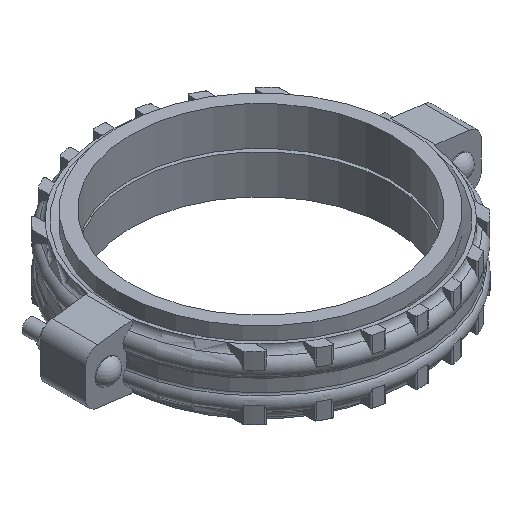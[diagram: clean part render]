
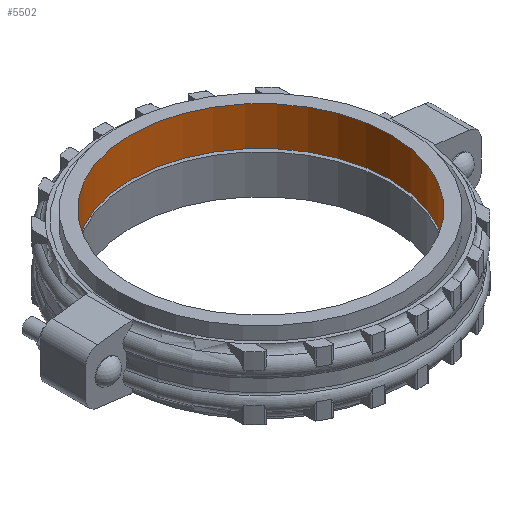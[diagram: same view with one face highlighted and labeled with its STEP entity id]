
A CAD part, isometric view. The second image highlights one B-rep face of the part: STEP entity #5502.
In plain terms, the highlighted cylindrical face has radius 254 mm (diameter 508 mm), a full revolution.
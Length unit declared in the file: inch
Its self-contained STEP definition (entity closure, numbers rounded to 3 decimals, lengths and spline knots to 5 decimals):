
#378=CYLINDRICAL_SURFACE('',#6131,10.);
#642=FACE_OUTER_BOUND('',#906,.T.);
#906=EDGE_LOOP('',(#4898,#4899,#4900,#4901,#4902,#4903));
#1237=LINE('',#11437,#1566);
#1566=VECTOR('',#7576,10.);
#1869=CIRCLE('',#6129,10.);
#1870=CIRCLE('',#6130,10.);
#1871=CIRCLE('',#6132,10.);
#1872=CIRCLE('',#6133,10.);
#2411=VERTEX_POINT('',#11431);
#2412=VERTEX_POINT('',#11432);
#2413=VERTEX_POINT('',#11436);
#2414=VERTEX_POINT('',#11438);
#3241=EDGE_CURVE('',#2411,#2412,#1869,.T.);
#3242=EDGE_CURVE('',#2412,#2411,#1870,.T.);
#3243=EDGE_CURVE('',#2412,#2413,#1237,.T.);
#3244=EDGE_CURVE('',#2414,#2413,#1871,.T.);
#3245=EDGE_CURVE('',#2413,#2414,#1872,.T.);
#4898=ORIENTED_EDGE('',*,*,#3241,.T.);
#4899=ORIENTED_EDGE('',*,*,#3243,.T.);
#4900=ORIENTED_EDGE('',*,*,#3244,.F.);
#4901=ORIENTED_EDGE('',*,*,#3245,.F.);
#4902=ORIENTED_EDGE('',*,*,#3243,.F.);
#4903=ORIENTED_EDGE('',*,*,#3242,.T.);
#5502=ADVANCED_FACE('',(#642),#378,.F.);
#6129=AXIS2_PLACEMENT_3D('',#11433,#7570,#7571);
#6130=AXIS2_PLACEMENT_3D('',#11434,#7572,#7573);
#6131=AXIS2_PLACEMENT_3D('',#11435,#7574,#7575);
#6132=AXIS2_PLACEMENT_3D('',#11439,#7577,#7578);
#6133=AXIS2_PLACEMENT_3D('',#11440,#7579,#7580);
#7570=DIRECTION('center_axis',(0.,0.,-1.));
#7571=DIRECTION('ref_axis',(1.,0.,0.));
#7572=DIRECTION('center_axis',(0.,0.,-1.));
#7573=DIRECTION('ref_axis',(1.,0.,0.));
#7574=DIRECTION('center_axis',(0.,0.,-1.));
#7575=DIRECTION('ref_axis',(0.,1.,0.));
#7576=DIRECTION('',(0.,0.,1.));
#7577=DIRECTION('center_axis',(0.,0.,-1.));
#7578=DIRECTION('ref_axis',(1.,0.,0.));
#7579=DIRECTION('center_axis',(0.,0.,-1.));
#7580=DIRECTION('ref_axis',(1.,0.,0.));
#11431=CARTESIAN_POINT('',(0.,10.,0.));
#11432=CARTESIAN_POINT('',(0.,-10.,0.));
#11433=CARTESIAN_POINT('Origin',(0.,0.,0.));
#11434=CARTESIAN_POINT('Origin',(0.,0.,0.));
#11435=CARTESIAN_POINT('Origin',(0.,0.,1.5));
#11436=CARTESIAN_POINT('',(0.,-10.,3.));
#11437=CARTESIAN_POINT('',(0.,-10.,1.5));
#11438=CARTESIAN_POINT('',(0.,10.,3.));
#11439=CARTESIAN_POINT('Origin',(0.,0.,3.));
#11440=CARTESIAN_POINT('Origin',(0.,0.,3.));
